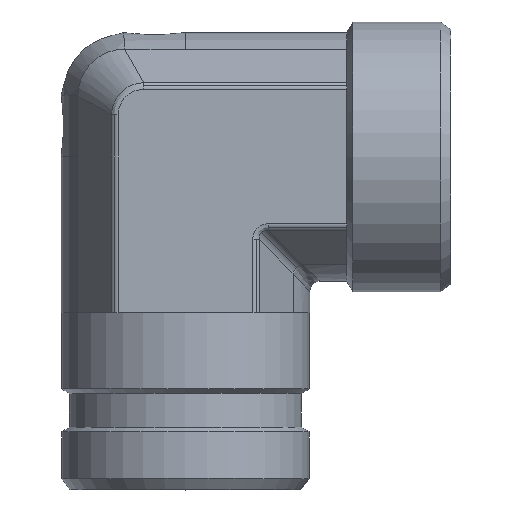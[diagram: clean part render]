
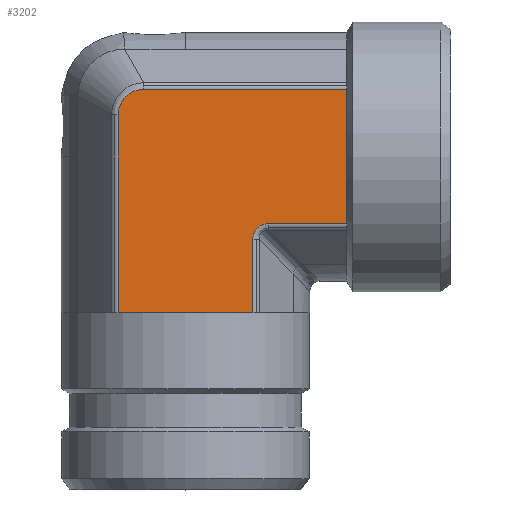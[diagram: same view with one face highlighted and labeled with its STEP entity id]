
A CAD part, top view. The second image highlights one B-rep face of the part: STEP entity #3202.
In plain terms, the highlighted planar face has unit normal (0, 0, 1) as drawn and (0, -1, 0) by its records, which use the part's own axes.
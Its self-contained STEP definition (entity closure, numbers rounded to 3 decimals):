
#361=CARTESIAN_POINT('',(11.449,-23.875,12.918));
#362=VERTEX_POINT('',#361);
#370=CARTESIAN_POINT('',(25.5,-23.875,12.918));
#371=VERTEX_POINT('',#370);
#372=CARTESIAN_POINT('',(11.449,-23.875,12.918));
#373=DIRECTION('',(1.0,0.0,0.0));
#374=VECTOR('',#373,14.051);
#375=LINE('',#372,#374);
#376=EDGE_CURVE('',#362,#371,#375,.T.);
#485=CARTESIAN_POINT('',(-17.418,-23.875,-8.029));
#486=VERTEX_POINT('',#485);
#494=CARTESIAN_POINT('',(-17.418,-23.875,31.0));
#495=VERTEX_POINT('',#494);
#496=CARTESIAN_POINT('',(-17.418,-23.875,-8.029));
#497=DIRECTION('',(0.0,0.0,1.0));
#498=VECTOR('',#497,39.029);
#499=LINE('',#496,#498);
#500=EDGE_CURVE('',#486,#495,#499,.T.);
#2053=CARTESIAN_POINT('',(-4.5,-23.875,31.0));
#2054=VERTEX_POINT('',#2053);
#2119=CARTESIAN_POINT('',(-4.5,-23.875,31.0));
#2120=DIRECTION('',(-1.0,0.0,0.0));
#2121=VECTOR('',#2120,12.918);
#2122=LINE('',#2119,#2121);
#2123=EDGE_CURVE('',#2054,#495,#2122,.T.);
#2188=CARTESIAN_POINT('',(8.418,-23.875,31.0));
#2189=VERTEX_POINT('',#2188);
#2190=CARTESIAN_POINT('',(8.418,-23.875,31.0));
#2191=DIRECTION('',(-1.0,0.0,0.0));
#2192=VECTOR('',#2191,12.918);
#2193=LINE('',#2190,#2192);
#2194=EDGE_CURVE('',#2189,#2054,#2193,.T.);
#2816=CARTESIAN_POINT('',(-12.529,-23.875,-12.918));
#2817=VERTEX_POINT('',#2816);
#2825=CARTESIAN_POINT('',(-17.418,-23.875,-8.029));
#2826=CARTESIAN_POINT('',(-17.418,-23.875,-8.347));
#2827=CARTESIAN_POINT('',(-17.386,-23.875,-8.668));
#2828=CARTESIAN_POINT('',(-17.221,-23.875,-9.486));
#2829=CARTESIAN_POINT('',(-17.041,-23.875,-9.969));
#2830=CARTESIAN_POINT('',(-16.385,-23.875,-11.131));
#2831=CARTESIAN_POINT('',(-15.803,-23.875,-11.74));
#2832=CARTESIAN_POINT('',(-14.333,-23.875,-12.659));
#2833=CARTESIAN_POINT('',(-13.432,-23.875,-12.918));
#2834=CARTESIAN_POINT('',(-12.529,-23.875,-12.918));
#2835=B_SPLINE_CURVE_WITH_KNOTS('',3,(#2825,#2826,#2827,#2828,#2829,#2830,#2831,#2832,#2833,#2834),.UNSPECIFIED.,.F.,.U.,(4,2,2,2,4),(-7.634,-6.68,-5.153,-2.71,0.0),.UNSPECIFIED.);
#2836=EDGE_CURVE('',#2817,#486,#2835,.F.);
#2862=CARTESIAN_POINT('',(25.5,-23.875,-12.918));
#2863=VERTEX_POINT('',#2862);
#2871=CARTESIAN_POINT('',(25.5,-23.875,-12.918));
#2872=DIRECTION('',(-1.0,0.0,0.0));
#2873=VECTOR('',#2872,38.029);
#2874=LINE('',#2871,#2873);
#2875=EDGE_CURVE('',#2863,#2817,#2874,.T.);
#3007=CARTESIAN_POINT('',(8.418,-23.875,15.949));
#3008=VERTEX_POINT('',#3007);
#3009=CARTESIAN_POINT('',(8.418,-23.875,31.0));
#3010=DIRECTION('',(0.0,0.0,-1.0));
#3011=VECTOR('',#3010,15.051);
#3012=LINE('',#3009,#3011);
#3013=EDGE_CURVE('',#2189,#3008,#3012,.T.);
#3146=CARTESIAN_POINT('',(12.46,-23.875,16.96));
#3147=DIRECTION('',(0.,-1.0,0.));
#3148=DIRECTION('',(-0.707,0.,-0.707));
#3149=AXIS2_PLACEMENT_3D('',#3146,#3147,#3148);
#3150=ELLIPSE('',#3149,4.518,3.5);
#3151=EDGE_CURVE('',#3008,#362,#3150,.T.);
#3181=CARTESIAN_POINT('',(-4.5,-23.875,-3.175));
#3182=DIRECTION('',(0.0,-1.0,0.0));
#3183=DIRECTION('',(0.0,0.0,-1.0));
#3184=AXIS2_PLACEMENT_3D('',#3181,#3182,#3183);
#3185=PLANE('',#3184);
#3186=ORIENTED_EDGE('',*,*,#2875,.F.);
#3187=CARTESIAN_POINT('',(25.5,-23.875,-12.918));
#3188=DIRECTION('',(0.0,0.0,1.0));
#3189=VECTOR('',#3188,25.836);
#3190=LINE('',#3187,#3189);
#3191=EDGE_CURVE('',#2863,#371,#3190,.T.);
#3192=ORIENTED_EDGE('',*,*,#3191,.T.);
#3193=ORIENTED_EDGE('',*,*,#376,.F.);
#3194=ORIENTED_EDGE('',*,*,#3151,.F.);
#3195=ORIENTED_EDGE('',*,*,#3013,.F.);
#3196=ORIENTED_EDGE('',*,*,#2194,.T.);
#3197=ORIENTED_EDGE('',*,*,#2123,.T.);
#3198=ORIENTED_EDGE('',*,*,#500,.F.);
#3199=ORIENTED_EDGE('',*,*,#2836,.F.);
#3200=EDGE_LOOP('',(#3186,#3192,#3193,#3194,#3195,#3196,#3197,#3198,#3199));
#3201=FACE_OUTER_BOUND('',#3200,.T.);
#3202=ADVANCED_FACE('',(#3201),#3185,.T.);
